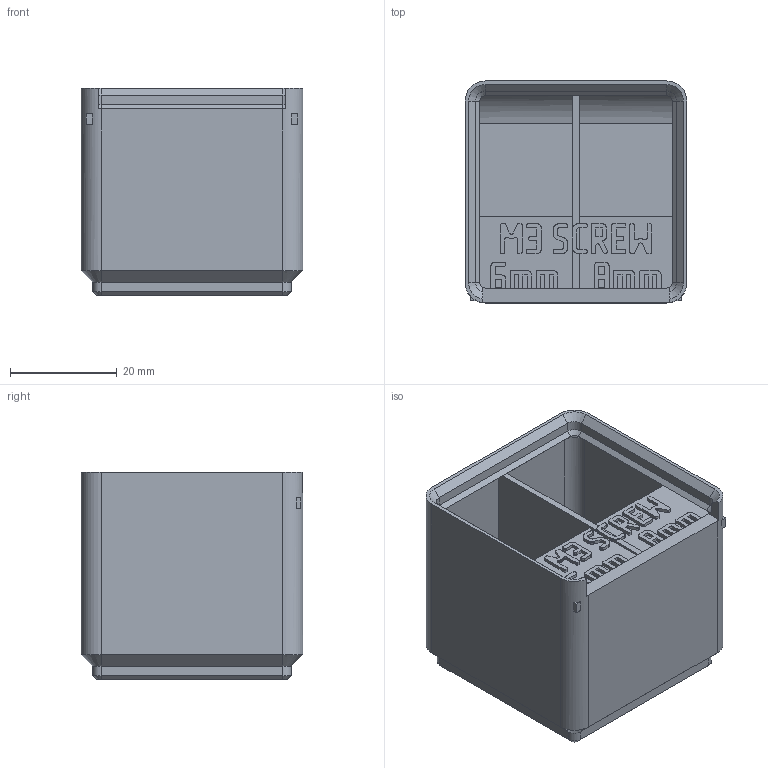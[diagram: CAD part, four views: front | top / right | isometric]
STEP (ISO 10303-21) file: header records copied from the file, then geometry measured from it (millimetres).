
FILE_DESCRIPTION(('Open CASCADE Model'),'2;1');
FILE_NAME('Open CASCADE Shape Model','2026-11-03T10:35:07',('Author'),( 'Open CASCADE'),'Open CASCADE STEP processor 8.0','build123d', 'Unknown');
FILE_SCHEMA(('AUTOMOTIVE_DESIGN { 1 0 10303 214 1 1 1 1 }'));
Products named in the file (1): COMPOUND
Bounding box: 41.5 x 41.5 x 38.9 mm (x, y, z)
Volume: 16975.1 mm3; surface area: 17563 mm2
Topology: 1 solids, 1 shells, 1435 faces, 4239 edges, 2810 vertices
Faces by surface type: plane 1397, cone 20, cylinder 18
Entity records: 98882 total; most frequent: CARTESIAN_POINT 20849, DIRECTION 12147, LINE 9143, VECTOR 9143, ORIENTED_EDGE 8478, PCURVE 8478, DEFINITIONAL_REPRESENTATION 8478, EDGE_CURVE 4239
